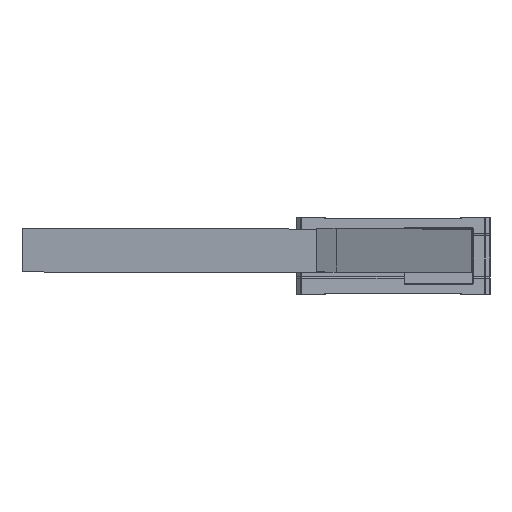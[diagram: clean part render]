
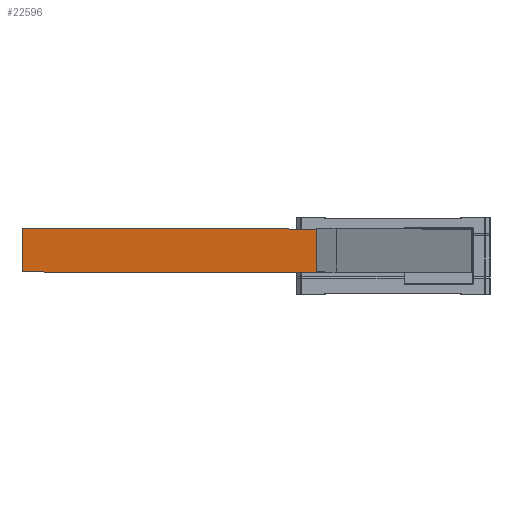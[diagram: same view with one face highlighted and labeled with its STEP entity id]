
A CAD part, top view. The second image highlights one B-rep face of the part: STEP entity #22596.
In plain terms, the highlighted planar face has unit normal (0.824, 0, 0.566).
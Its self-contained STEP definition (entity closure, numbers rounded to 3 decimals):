
#3939 = DIRECTION ( 'NONE',  ( 0.566, 0., -0.824 ) ) ;
#5273 = DIRECTION ( 'NONE',  ( 0.566, 0., -0.824 ) ) ;
#10483 = CARTESIAN_POINT ( 'NONE',  ( -153.1, 11., 235. ) ) ;
#14045 = EDGE_CURVE ( 'NONE', #82791, #64566, #38892, .T. ) ;
#14102 = CARTESIAN_POINT ( 'NONE',  ( -153.1, -7., 235. ) ) ;
#16790 = DIRECTION ( 'NONE',  ( 0.824, 0., 0.566 ) ) ;
#19945 = ORIENTED_EDGE ( 'NONE', *, *, #40474, .T. ) ;
#22596 = ADVANCED_FACE ( 'NONE', ( #35711 ), #49858, .T. ) ;
#24386 = VECTOR ( 'NONE', #50128, 1000. ) ;
#24838 = DIRECTION ( 'NONE',  ( 0., 1., 0. ) ) ;
#30354 = DIRECTION ( 'NONE',  ( 0., 1., 0. ) ) ;
#35711 = FACE_OUTER_BOUND ( 'NONE', #52030, .T. ) ;
#36070 = CARTESIAN_POINT ( 'NONE',  ( -153.1, -7., 235. ) ) ;
#38470 = CARTESIAN_POINT ( 'NONE',  ( -29.5, -7., 55. ) ) ;
#38892 = LINE ( 'NONE', #38470, #45322 ) ;
#40412 = ORIENTED_EDGE ( 'NONE', *, *, #41420, .F. ) ;
#40474 = EDGE_CURVE ( 'NONE', #46352, #82791, #66539, .T. ) ;
#41420 = EDGE_CURVE ( 'NONE', #46352, #55202, #50656, .T. ) ;
#42766 = CARTESIAN_POINT ( 'NONE',  ( -153.1, -7., 235. ) ) ;
#43152 = VECTOR ( 'NONE', #5273, 1000. ) ;
#45322 = VECTOR ( 'NONE', #24838, 1000. ) ;
#46352 = VERTEX_POINT ( 'NONE', #14102 ) ;
#49858 = PLANE ( 'NONE',  #54165 ) ;
#50128 = DIRECTION ( 'NONE',  ( 0.566, 0., -0.824 ) ) ;
#50656 = LINE ( 'NONE', #36070, #60177 ) ;
#52030 = EDGE_LOOP ( 'NONE', ( #61186, #40412, #19945, #76262 ) ) ;
#53348 = CARTESIAN_POINT ( 'NONE',  ( -153.1, -7., 235. ) ) ;
#53619 = CARTESIAN_POINT ( 'NONE',  ( -29.5, -7., 55. ) ) ;
#54165 = AXIS2_PLACEMENT_3D ( 'NONE', #42766, #16790, #3939 ) ;
#55202 = VERTEX_POINT ( 'NONE', #10483 ) ;
#57151 = LINE ( 'NONE', #84018, #24386 ) ;
#60177 = VECTOR ( 'NONE', #30354, 1000. ) ;
#61186 = ORIENTED_EDGE ( 'NONE', *, *, #63430, .F. ) ;
#63430 = EDGE_CURVE ( 'NONE', #55202, #64566, #57151, .T. ) ;
#64566 = VERTEX_POINT ( 'NONE', #70175 ) ;
#66539 = LINE ( 'NONE', #53348, #43152 ) ;
#70175 = CARTESIAN_POINT ( 'NONE',  ( -29.5, 11., 55. ) ) ;
#76262 = ORIENTED_EDGE ( 'NONE', *, *, #14045, .T. ) ;
#82791 = VERTEX_POINT ( 'NONE', #53619 ) ;
#84018 = CARTESIAN_POINT ( 'NONE',  ( -153.1, 11., 235. ) ) ;
